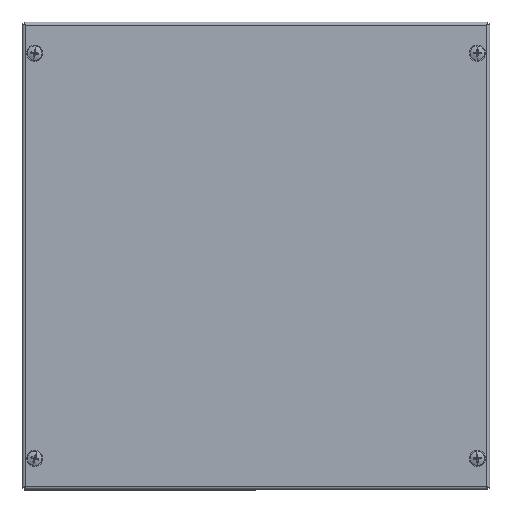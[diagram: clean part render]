
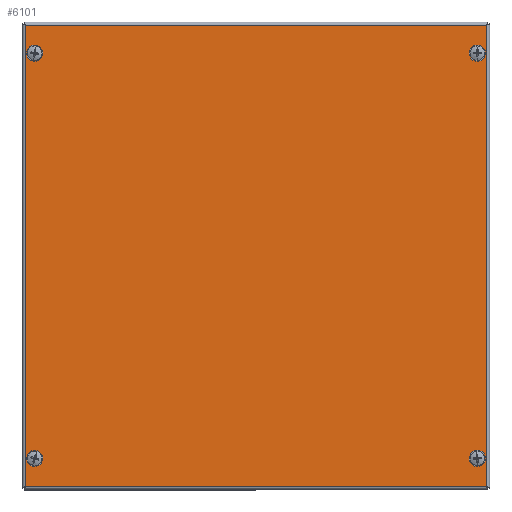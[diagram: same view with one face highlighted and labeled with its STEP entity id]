
A CAD part, top view. The second image highlights one B-rep face of the part: STEP entity #6101.
In plain terms, the highlighted planar face has unit normal (0, 0, 1) as drawn and (0, 0, -1) by its records, which use the part's own axes.
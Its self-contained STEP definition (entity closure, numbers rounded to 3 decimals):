
#126 = VECTOR ( 'NONE', #5364, 1000. ) ;
#231 = AXIS2_PLACEMENT_3D ( 'NONE', #7003, #12768, #2735 ) ;
#303 = EDGE_CURVE ( 'NONE', #10592, #12069, #2178, .T. ) ;
#369 = EDGE_CURVE ( 'NONE', #15527, #7795, #2162, .T. ) ;
#502 = CARTESIAN_POINT ( 'NONE',  ( 142., 130., -1.2 ) ) ;
#778 = FACE_BOUND ( 'NONE', #5593, .T. ) ;
#1242 = DIRECTION ( 'NONE',  ( 0., 0., 1. ) ) ;
#1247 = CARTESIAN_POINT ( 'NONE',  ( -148.063, -148.093, -1.2 ) ) ;
#1472 = DIRECTION ( 'NONE',  ( 1., 0., 0. ) ) ;
#1845 = EDGE_CURVE ( 'NONE', #11398, #8826, #3090, .T. ) ;
#2091 = CARTESIAN_POINT ( 'NONE',  ( -138., -130., -1.2 ) ) ;
#2133 = LINE ( 'NONE', #7824, #6062 ) ;
#2162 = CIRCLE ( 'NONE', #8985, 4. ) ;
#2178 = LINE ( 'NONE', #1247, #7495 ) ;
#2391 = DIRECTION ( 'NONE',  ( 0., 0., 1. ) ) ;
#2484 = ORIENTED_EDGE ( 'NONE', *, *, #1845, .T. ) ;
#2603 = EDGE_LOOP ( 'NONE', ( #14106, #12351 ) ) ;
#2631 = EDGE_CURVE ( 'NONE', #12857, #10592, #2133, .T. ) ;
#2735 = DIRECTION ( 'NONE',  ( 1., 0., 0. ) ) ;
#2799 = EDGE_CURVE ( 'NONE', #12069, #8821, #5471, .T. ) ;
#3038 = CARTESIAN_POINT ( 'NONE',  ( -142., -130., -1.2 ) ) ;
#3090 = CIRCLE ( 'NONE', #12304, 4. ) ;
#3202 = PLANE ( 'NONE',  #231 ) ;
#3672 = CIRCLE ( 'NONE', #11266, 4. ) ;
#3923 = ORIENTED_EDGE ( 'NONE', *, *, #5342, .T. ) ;
#3937 = CARTESIAN_POINT ( 'NONE',  ( -146., -130., -1.2 ) ) ;
#4245 = ORIENTED_EDGE ( 'NONE', *, *, #303, .T. ) ;
#4312 = CARTESIAN_POINT ( 'NONE',  ( 138., -130., -1.2 ) ) ;
#4538 = FACE_BOUND ( 'NONE', #2603, .T. ) ;
#4824 = ORIENTED_EDGE ( 'NONE', *, *, #8257, .T. ) ;
#4947 = VERTEX_POINT ( 'NONE', #5777 ) ;
#4998 = AXIS2_PLACEMENT_3D ( 'NONE', #3038, #5530, #6682 ) ;
#5246 = CIRCLE ( 'NONE', #8903, 4. ) ;
#5286 = DIRECTION ( 'NONE',  ( 1., 0., 0. ) ) ;
#5342 = EDGE_CURVE ( 'NONE', #7795, #15527, #14219, .T. ) ;
#5364 = DIRECTION ( 'NONE',  ( 1., 0., 0. ) ) ;
#5471 = LINE ( 'NONE', #9218, #126 ) ;
#5530 = DIRECTION ( 'NONE',  ( 0., 0., 1. ) ) ;
#5533 = VERTEX_POINT ( 'NONE', #8845 ) ;
#5593 = EDGE_LOOP ( 'NONE', ( #7399, #3923 ) ) ;
#5731 = CARTESIAN_POINT ( 'NONE',  ( 142., 130., -1.2 ) ) ;
#5777 = CARTESIAN_POINT ( 'NONE',  ( -146., 130., -1.2 ) ) ;
#5882 = EDGE_LOOP ( 'NONE', ( #8100, #2484 ) ) ;
#5922 = FACE_BOUND ( 'NONE', #11444, .T. ) ;
#6062 = VECTOR ( 'NONE', #9001, 1000. ) ;
#6101 = ADVANCED_FACE ( 'NONE', ( #4538, #16020, #778, #5922, #15603 ), #3202, .F. ) ;
#6431 = LINE ( 'NONE', #16079, #14367 ) ;
#6559 = AXIS2_PLACEMENT_3D ( 'NONE', #502, #9340, #10619 ) ;
#6682 = DIRECTION ( 'NONE',  ( 1., 0., 0. ) ) ;
#7003 = CARTESIAN_POINT ( 'NONE',  ( 0., 0., -1.2 ) ) ;
#7399 = ORIENTED_EDGE ( 'NONE', *, *, #369, .T. ) ;
#7495 = VECTOR ( 'NONE', #15409, 1000. ) ;
#7537 = AXIS2_PLACEMENT_3D ( 'NONE', #9927, #2391, #16099 ) ;
#7795 = VERTEX_POINT ( 'NONE', #13792 ) ;
#7824 = CARTESIAN_POINT ( 'NONE',  ( 148.093, -148.063, -1.2 ) ) ;
#8100 = ORIENTED_EDGE ( 'NONE', *, *, #14660, .T. ) ;
#8155 = ORIENTED_EDGE ( 'NONE', *, *, #2631, .T. ) ;
#8257 = EDGE_CURVE ( 'NONE', #8821, #12857, #6431, .T. ) ;
#8821 = VERTEX_POINT ( 'NONE', #10804 ) ;
#8823 = DIRECTION ( 'NONE',  ( 1., 0., 0. ) ) ;
#8826 = VERTEX_POINT ( 'NONE', #13224 ) ;
#8845 = CARTESIAN_POINT ( 'NONE',  ( -138., 130., -1.2 ) ) ;
#8903 = AXIS2_PLACEMENT_3D ( 'NONE', #11513, #15456, #5286 ) ;
#8985 = AXIS2_PLACEMENT_3D ( 'NONE', #5731, #14574, #14509 ) ;
#9001 = DIRECTION ( 'NONE',  ( -1., 0., 0. ) ) ;
#9218 = CARTESIAN_POINT ( 'NONE',  ( -148.093, 148.063, -1.2 ) ) ;
#9340 = DIRECTION ( 'NONE',  ( 0., 0., 1. ) ) ;
#9493 = ORIENTED_EDGE ( 'NONE', *, *, #2799, .T. ) ;
#9541 = EDGE_CURVE ( 'NONE', #13454, #12816, #3672, .T. ) ;
#9927 = CARTESIAN_POINT ( 'NONE',  ( -142., 130., -1.2 ) ) ;
#9981 = CARTESIAN_POINT ( 'NONE',  ( 142., -130., -1.2 ) ) ;
#10574 = DIRECTION ( 'NONE',  ( 1., 0., 0. ) ) ;
#10592 = VERTEX_POINT ( 'NONE', #11659 ) ;
#10619 = DIRECTION ( 'NONE',  ( 1., 0., 0. ) ) ;
#10637 = ORIENTED_EDGE ( 'NONE', *, *, #16233, .T. ) ;
#10664 = EDGE_CURVE ( 'NONE', #12816, #13454, #11525, .T. ) ;
#10779 = CIRCLE ( 'NONE', #7537, 4. ) ;
#10791 = CARTESIAN_POINT ( 'NONE',  ( 146., 130., -1.2 ) ) ;
#10804 = CARTESIAN_POINT ( 'NONE',  ( 148.063, 148.063, -1.2 ) ) ;
#11074 = EDGE_LOOP ( 'NONE', ( #4245, #9493, #4824, #8155 ) ) ;
#11266 = AXIS2_PLACEMENT_3D ( 'NONE', #14279, #15583, #1472 ) ;
#11398 = VERTEX_POINT ( 'NONE', #4312 ) ;
#11444 = EDGE_LOOP ( 'NONE', ( #10637, #14558 ) ) ;
#11513 = CARTESIAN_POINT ( 'NONE',  ( -142., 130., -1.2 ) ) ;
#11525 = CIRCLE ( 'NONE', #4998, 4. ) ;
#11659 = CARTESIAN_POINT ( 'NONE',  ( -148.063, -148.063, -1.2 ) ) ;
#12069 = VERTEX_POINT ( 'NONE', #16362 ) ;
#12304 = AXIS2_PLACEMENT_3D ( 'NONE', #15453, #12939, #10574 ) ;
#12351 = ORIENTED_EDGE ( 'NONE', *, *, #10664, .T. ) ;
#12768 = DIRECTION ( 'NONE',  ( 0., 0., 1. ) ) ;
#12770 = CARTESIAN_POINT ( 'NONE',  ( 148.063, -148.063, -1.2 ) ) ;
#12816 = VERTEX_POINT ( 'NONE', #3937 ) ;
#12857 = VERTEX_POINT ( 'NONE', #12770 ) ;
#12939 = DIRECTION ( 'NONE',  ( 0., 0., 1. ) ) ;
#13224 = CARTESIAN_POINT ( 'NONE',  ( 146., -130., -1.2 ) ) ;
#13407 = DIRECTION ( 'NONE',  ( 0., -1., 0. ) ) ;
#13454 = VERTEX_POINT ( 'NONE', #2091 ) ;
#13792 = CARTESIAN_POINT ( 'NONE',  ( 138., 130., -1.2 ) ) ;
#14106 = ORIENTED_EDGE ( 'NONE', *, *, #9541, .T. ) ;
#14219 = CIRCLE ( 'NONE', #6559, 4. ) ;
#14279 = CARTESIAN_POINT ( 'NONE',  ( -142., -130., -1.2 ) ) ;
#14367 = VECTOR ( 'NONE', #13407, 1000. ) ;
#14509 = DIRECTION ( 'NONE',  ( 1., 0., 0. ) ) ;
#14558 = ORIENTED_EDGE ( 'NONE', *, *, #14730, .T. ) ;
#14574 = DIRECTION ( 'NONE',  ( 0., 0., 1. ) ) ;
#14660 = EDGE_CURVE ( 'NONE', #8826, #11398, #16355, .T. ) ;
#14730 = EDGE_CURVE ( 'NONE', #4947, #5533, #5246, .T. ) ;
#15409 = DIRECTION ( 'NONE',  ( 0., 1., 0. ) ) ;
#15453 = CARTESIAN_POINT ( 'NONE',  ( 142., -130., -1.2 ) ) ;
#15456 = DIRECTION ( 'NONE',  ( 0., 0., 1. ) ) ;
#15527 = VERTEX_POINT ( 'NONE', #10791 ) ;
#15583 = DIRECTION ( 'NONE',  ( 0., 0., 1. ) ) ;
#15603 = FACE_OUTER_BOUND ( 'NONE', #11074, .T. ) ;
#16020 = FACE_BOUND ( 'NONE', #5882, .T. ) ;
#16079 = CARTESIAN_POINT ( 'NONE',  ( 148.063, 148.093, -1.2 ) ) ;
#16099 = DIRECTION ( 'NONE',  ( 1., 0., 0. ) ) ;
#16233 = EDGE_CURVE ( 'NONE', #5533, #4947, #10779, .T. ) ;
#16323 = AXIS2_PLACEMENT_3D ( 'NONE', #9981, #1242, #8823 ) ;
#16355 = CIRCLE ( 'NONE', #16323, 4. ) ;
#16362 = CARTESIAN_POINT ( 'NONE',  ( -148.063, 148.063, -1.2 ) ) ;
